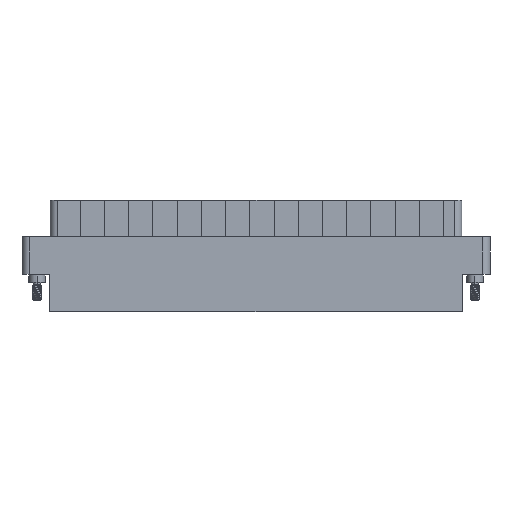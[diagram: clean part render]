
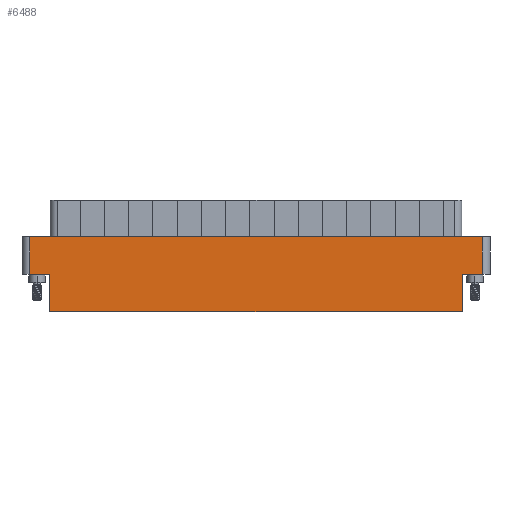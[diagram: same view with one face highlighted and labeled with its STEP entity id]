
A CAD part, left-side view. The second image highlights one B-rep face of the part: STEP entity #6488.
In plain terms, the highlighted planar face has unit normal (-1, 0, 0).
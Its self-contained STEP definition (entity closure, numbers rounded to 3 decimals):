
#316 = FACE_OUTER_BOUND ( 'NONE', #10300, .T. ) ;
#397 = LINE ( 'NONE', #10620, #6966 ) ;
#403 = EDGE_CURVE ( 'NONE', #2346, #4399, #397, .T. ) ;
#596 = EDGE_CURVE ( 'NONE', #9970, #4399, #2020, .T. ) ;
#629 = ORIENTED_EDGE ( 'NONE', *, *, #6726, .F. ) ;
#825 = CARTESIAN_POINT ( 'NONE',  ( 678.328, 829.52, 1291.344 ) ) ;
#839 = VECTOR ( 'NONE', #10497, 1000. ) ;
#949 = LINE ( 'NONE', #12159, #14804 ) ;
#1024 = LINE ( 'NONE', #14417, #2022 ) ;
#1656 = CARTESIAN_POINT ( 'NONE',  ( 678.328, 963.505, 1291.344 ) ) ;
#1711 = ORIENTED_EDGE ( 'NONE', *, *, #4077, .F. ) ;
#1726 = CARTESIAN_POINT ( 'NONE',  ( 678.328, 829.52, 1302.698 ) ) ;
#1971 = LINE ( 'NONE', #6541, #5194 ) ;
#2020 = LINE ( 'NONE', #825, #6269 ) ;
#2022 = VECTOR ( 'NONE', #8950, 1000. ) ;
#2047 = ORIENTED_EDGE ( 'NONE', *, *, #403, .T. ) ;
#2165 = EDGE_CURVE ( 'NONE', #8054, #9970, #1971, .T. ) ;
#2346 = VERTEX_POINT ( 'NONE', #8462 ) ;
#3050 = ORIENTED_EDGE ( 'NONE', *, *, #5974, .T. ) ;
#3435 = CARTESIAN_POINT ( 'NONE',  ( 678.328, 963.505, 1302.698 ) ) ;
#3754 = CARTESIAN_POINT ( 'NONE',  ( 678.328, 961.219, 1314.204 ) ) ;
#4077 = EDGE_CURVE ( 'NONE', #6501, #13178, #13514, .T. ) ;
#4271 = VECTOR ( 'NONE', #10228, 1000. ) ;
#4386 = CARTESIAN_POINT ( 'NONE',  ( 678.328, 954.996, 1302.698 ) ) ;
#4399 = VERTEX_POINT ( 'NONE', #7241 ) ;
#5194 = VECTOR ( 'NONE', #5487, 1000. ) ;
#5396 = DIRECTION ( 'NONE',  ( 0., 0., -1. ) ) ;
#5487 = DIRECTION ( 'NONE',  ( 0., 1., 0. ) ) ;
#5944 = AXIS2_PLACEMENT_3D ( 'NONE', #1656, #14002, #14153 ) ;
#5974 = EDGE_CURVE ( 'NONE', #8054, #13178, #949, .T. ) ;
#6269 = VECTOR ( 'NONE', #5396, 1000. ) ;
#6488 = ADVANCED_FACE ( 'NONE', ( #316 ), #9362, .T. ) ;
#6501 = VERTEX_POINT ( 'NONE', #3754 ) ;
#6541 = CARTESIAN_POINT ( 'NONE',  ( 678.328, 821.011, 1302.698 ) ) ;
#6699 = CARTESIAN_POINT ( 'NONE',  ( 678.328, 823.297, 1302.698 ) ) ;
#6726 = EDGE_CURVE ( 'NONE', #6951, #12580, #9195, .T. ) ;
#6951 = VERTEX_POINT ( 'NONE', #4386 ) ;
#6966 = VECTOR ( 'NONE', #10697, 1000. ) ;
#7241 = CARTESIAN_POINT ( 'NONE',  ( 678.328, 829.52, 1291.344 ) ) ;
#7699 = CARTESIAN_POINT ( 'NONE',  ( 678.328, 963.505, 1314.204 ) ) ;
#8054 = VERTEX_POINT ( 'NONE', #6699 ) ;
#8462 = CARTESIAN_POINT ( 'NONE',  ( 678.328, 954.996, 1291.344 ) ) ;
#8515 = CARTESIAN_POINT ( 'NONE',  ( 678.328, 823.297, 1314.204 ) ) ;
#8620 = ORIENTED_EDGE ( 'NONE', *, *, #2165, .F. ) ;
#8767 = VECTOR ( 'NONE', #10142, 1000. ) ;
#8950 = DIRECTION ( 'NONE',  ( 0., 0., 1. ) ) ;
#9027 = DIRECTION ( 'NONE',  ( 0., 0., 1. ) ) ;
#9163 = CARTESIAN_POINT ( 'NONE',  ( 678.328, 961.219, 1291.344 ) ) ;
#9195 = LINE ( 'NONE', #3435, #4271 ) ;
#9359 = ORIENTED_EDGE ( 'NONE', *, *, #596, .F. ) ;
#9362 = PLANE ( 'NONE',  #5944 ) ;
#9696 = CARTESIAN_POINT ( 'NONE',  ( 678.328, 961.219, 1302.698 ) ) ;
#9970 = VERTEX_POINT ( 'NONE', #1726 ) ;
#10142 = DIRECTION ( 'NONE',  ( 0., -1., 0. ) ) ;
#10228 = DIRECTION ( 'NONE',  ( 0., 1., 0. ) ) ;
#10300 = EDGE_LOOP ( 'NONE', ( #8620, #3050, #1711, #11222, #629, #13135, #2047, #9359 ) ) ;
#10497 = DIRECTION ( 'NONE',  ( 0., 0., -1. ) ) ;
#10620 = CARTESIAN_POINT ( 'NONE',  ( 678.328, 963.505, 1291.344 ) ) ;
#10697 = DIRECTION ( 'NONE',  ( 0., -1., 0. ) ) ;
#11222 = ORIENTED_EDGE ( 'NONE', *, *, #13630, .T. ) ;
#12159 = CARTESIAN_POINT ( 'NONE',  ( 678.328, 823.297, 1291.344 ) ) ;
#12580 = VERTEX_POINT ( 'NONE', #9696 ) ;
#12637 = EDGE_CURVE ( 'NONE', #2346, #6951, #1024, .T. ) ;
#13135 = ORIENTED_EDGE ( 'NONE', *, *, #12637, .F. ) ;
#13178 = VERTEX_POINT ( 'NONE', #8515 ) ;
#13514 = LINE ( 'NONE', #7699, #8767 ) ;
#13630 = EDGE_CURVE ( 'NONE', #6501, #12580, #13878, .T. ) ;
#13878 = LINE ( 'NONE', #9163, #839 ) ;
#14002 = DIRECTION ( 'NONE',  ( -1., 0., 0. ) ) ;
#14153 = DIRECTION ( 'NONE',  ( 0., -1., 0. ) ) ;
#14417 = CARTESIAN_POINT ( 'NONE',  ( 678.328, 954.996, 1302.698 ) ) ;
#14804 = VECTOR ( 'NONE', #9027, 1000. ) ;
